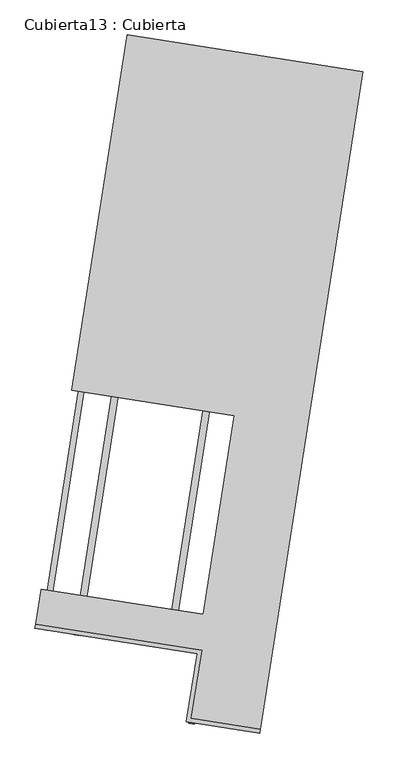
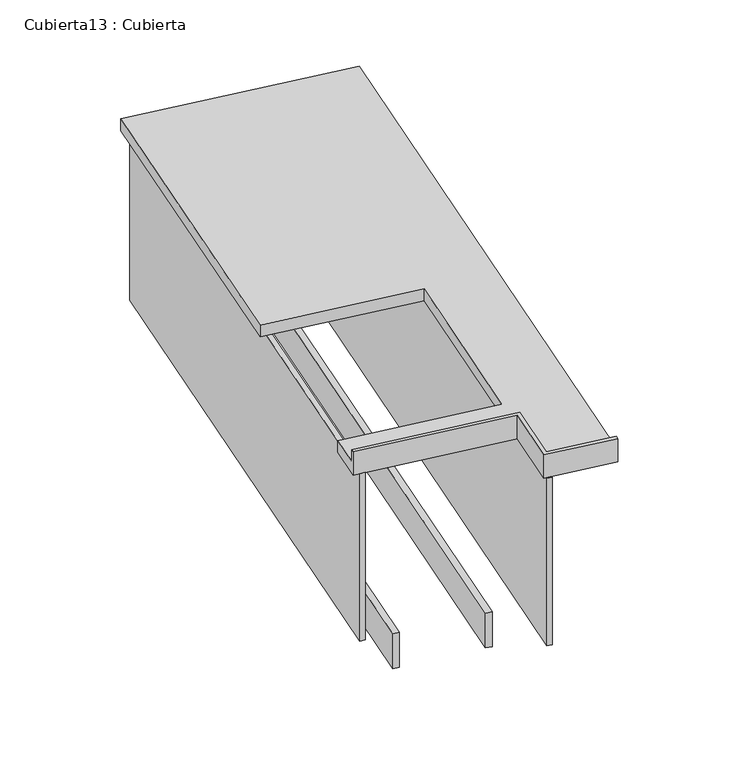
"""IFC4 building model written with IfcOpenShell, lengths in millimetres: furniture geometry, Cubierta13 : Cubierta."""

from ifc_helpers import new_model, si_unit, frame, origin, place, context, project, spatial, polyline, outline, extrude, faceted_brep, source, transform, mapped, element, save


def cubierta13_cubierta_1e0b6562(model_context):
    return source(origin(), model_context, "Body", "SolidModel", [
        extrude(outline(polyline([(-41443.253885, -58226.1470663), (-41769.7548292, -60320.8539985), (-41794.4565619, -60317.0037515), (-41471.8058647, -58246.9985521), (-41792.9283859, -58196.9453419), (-42115.5790828, -60266.9505414), (-42140.2808154, -60263.1002944), (-41813.7798716, -58168.3933622), (-41443.253885, -58226.1470663)])), frame((0.0, 0.0, 6400.0), z_axis=(0.0, 0.0, 1.0), x_axis=(1.0, 0.0, 0.0)), (0.0, 0.0, 1.0), 150.0),
        extrude(outline(polyline([(-41918.0373001, -58025.6334638), (-41300.4939866, -58121.8896378), (-41687.0587823, -60601.9435906), (-41706.8201684, -60598.863393), (-41323.3355704, -58138.5708263), (-41901.3561116, -58048.4750476), (-42244.0280928, -60246.929257), (-42263.7894789, -60243.8490595), (-41918.0373001, -58025.6334638)])), frame((0.0, 0.0, 6550.0), z_axis=(0.0, 0.0, 1.0), x_axis=(1.0, 0.0, 0.0)), (0.0, 0.0, 1.0), 720.0),
        faceted_brep([(-41049.6264128, -58135.6903749, 7320.0), (-41938.8887859, -57997.0814843, 7320.0), (-42148.3422215, -59340.8557423, 7320.0), (-41535.7392507, -59436.3418675, 7320.0), (-41652.7867589, -60187.2745415, 7320.0), (-42265.3897297, -60091.7884163, 7320.0), (-42286.1810634, -60225.1777729, 7320.0), (-41658.7570649, -60322.9740444, 7320.0), (-41698.7996329, -60579.8720607, 7320.0), (-41436.9612585, -60620.684679, 7320.0), (-41049.6264128, -58135.6903749, 7270.0), (-41439.2714066, -60635.5057186, 7270.0), (-41715.9308207, -60592.3829522, 7270.0), (-41675.8882527, -60335.4849358, 7270.0), (-42288.4912116, -60239.9988125, 7270.0), (-42265.3897297, -60091.7884163, 7270.0), (-41652.7867589, -60187.2745415, 7270.0), (-41535.7392507, -59436.3418675, 7270.0), (-42148.3422215, -59340.8557423, 7270.0), (-41938.8887859, -57997.0814843, 7270.0), (-41436.9612585, -60620.684679, 7370.0), (-41439.2714067, -60635.5057186, 7370.0), (-41698.7996329, -60579.8720607, 7370.0), (-41658.7570649, -60322.9740444, 7370.0), (-42286.1810634, -60225.1777729, 7370.0), (-42288.4912116, -60239.9988125, 7370.0), (-41675.8882527, -60335.4849358, 7370.0), (-41715.9308207, -60592.3829522, 7370.0)], [[[0, 1, 2, 3, 4, 5, 6, 7, 8, 9]], [[10, 11, 12, 13, 14, 15, 16, 17, 18, 19]], [[11, 10, 0, 9, 20, 21]], [[21, 20, 22, 23, 24, 25, 26, 27]], [[20, 9, 8, 22]], [[11, 21, 27, 12]], [[25, 24, 6, 5, 15, 14]], [[2, 1, 19, 18]], [[1, 0, 10, 19]], [[5, 4, 16, 15]], [[4, 3, 17, 16]], [[3, 2, 18, 17]], [[12, 27, 26, 13]], [[23, 22, 8, 7]], [[13, 26, 25, 14]], [[24, 23, 7, 6]]]),
    ])


if __name__ == "__main__":
    model = new_model("IFC4")
    model_context = context("Model", 3, world=origin())
    ifc_project = project(units=[si_unit("LENGTHUNIT", "METRE", prefix="MILLI")], contexts=[model_context])
    site = spatial("IfcSite", under=ifc_project)
    building = spatial("IfcBuilding", under=site)
    placement = place(None, origin())
    cubierta13_cubierta_shape = cubierta13_cubierta_1e0b6562(model_context)
    element("IfcFurniture", 1, ObjectType="Cubierta13 : Cubierta", at=placement, inside=building, context=model_context, shape_type="MappedRepresentation", body=[
        mapped(cubierta13_cubierta_shape, transform((0.0, 0.0, 0.0), x_axis=(1.0, 0.0, 0.0), y_axis=(0.0, 1.0, 0.0), z_axis=(0.0, 0.0, 1.0))),
    ])
    save(model, "model.ifc")
